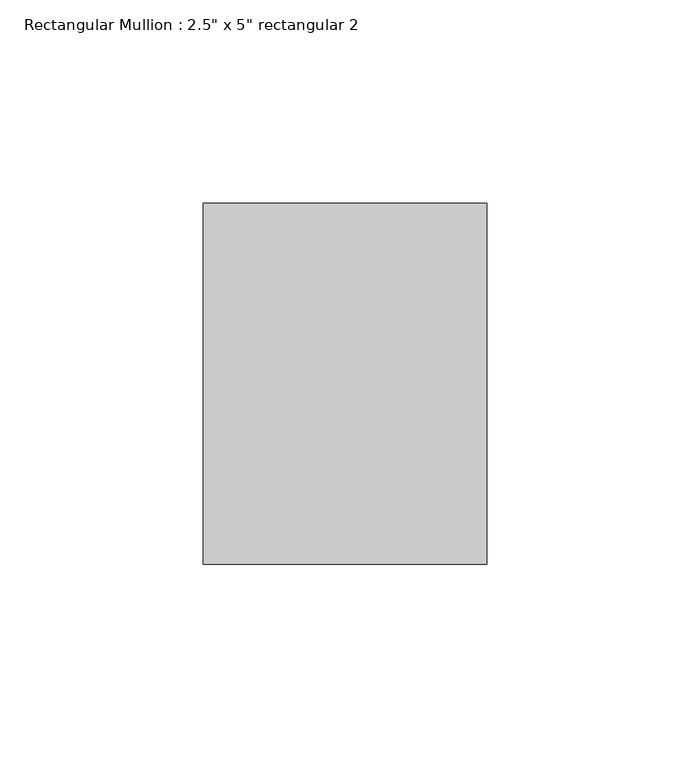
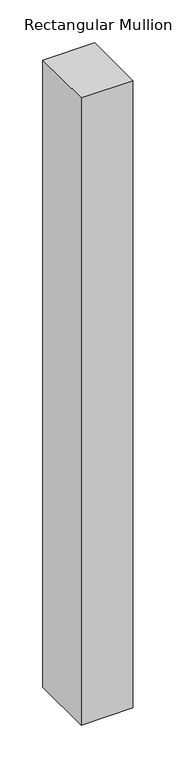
"""IFC4 building model written with IfcOpenShell, lengths in millimetres: member geometry."""

from ifc_helpers import new_model, si_unit, frame, origin, place, context, project, spatial, polyline, outline, extrude, source, transform, mapped, element, save


def member_edd1fded(model_context):
    return source(origin(), model_context, "Body", "SweptSolid", [
        extrude(outline(polyline([(0.0, 44.45), (0.0, -44.45), (-69.85, -44.45), (-69.85, 44.45), (0.0, 44.45)])), frame((0.0, 0.0, -892.7342205), z_axis=(0.0, 0.0, 1.0), x_axis=(1.0, 0.0, 0.0)), (0.0, 0.0, 1.0), 892.7342205),
    ])


if __name__ == "__main__":
    model = new_model("IFC4")
    model_context = context("Model", 3, world=origin())
    ifc_project = project(units=[si_unit("LENGTHUNIT", "METRE", prefix="MILLI")], contexts=[model_context])
    site = spatial("IfcSite", under=ifc_project)
    building = spatial("IfcBuilding", under=site)
    placement = place(None, origin())
    member_shape = member_edd1fded(model_context)
    element("IfcMember", 1, ObjectType="Rectangular Mullion : 2.5\" x 5\" rectangular 2", at=placement, inside=building, context=model_context, shape_type="MappedRepresentation", body=[
        mapped(member_shape, transform((0.0, 0.0, 0.0), x_axis=(1.0, 0.0, 0.0), y_axis=(0.0, 1.0, 0.0), z_axis=(0.0, 0.0, 1.0))),
    ])
    save(model, "model.ifc")
